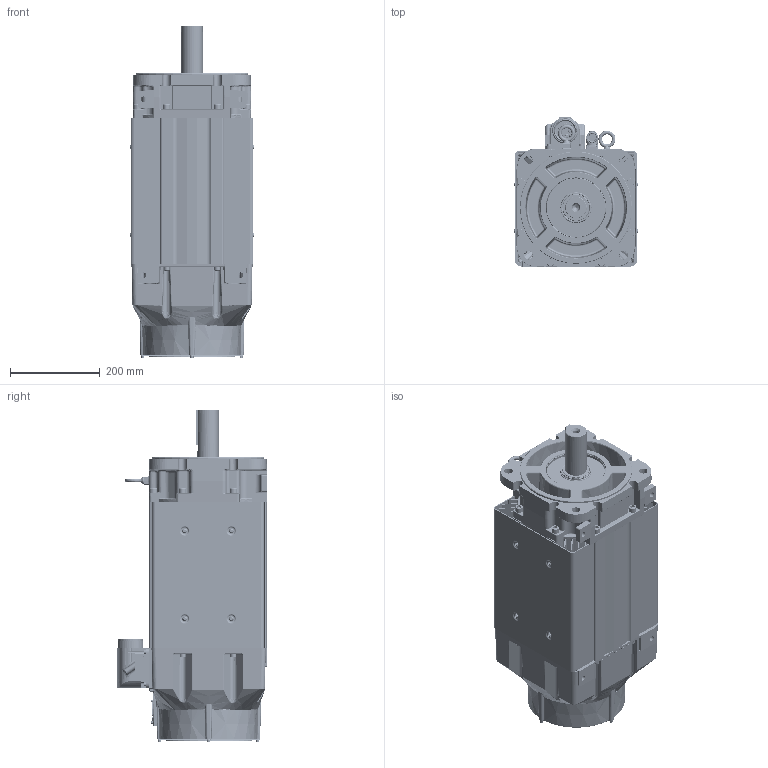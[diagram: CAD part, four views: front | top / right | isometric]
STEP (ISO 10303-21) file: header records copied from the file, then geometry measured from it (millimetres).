
FILE_DESCRIPTION((''),'2;1');
FILE_NAME('VPC-B3004A-SJ72FX_ASM','2016-09-27T',('SRGaddam'),('Rockwell Automation'),'PRO/ENGINEER BY PARAMETRIC TECHNOLOGY CORPORATION, 2012480','PRO/ENGINEER BY PARAMETRIC TECHNOLOGY CORPORATION, 2012480','');
FILE_SCHEMA(('CONFIG_CONTROL_DESIGN'));
Products named in the file (40): 10001404634_AF0; 10001404629_AF6; 10001404635_ASM; 10001585735; 10001441958; 10001737030; 10001448101; 10001587021; 10001405269_AF71; 10001405240_AF78; 10001405370_ASM; 10001946256; 10001956852; 10001989665; 10001713549_ASM; M4X7X14-SOCHD-CAP-SCR; 10001978970; 10001336508; 10001587431; CH4X063; 10001299929; 10001284567; 10000172464; 10001445961; 221404-Q12; 10000231113; 10002279234; 10001443420_ASM; 10001609981; 0002-5004; 10001586887; 10001439772; 0011-2084; M58; 10001586879; 142414_623; 135798_623; 142414-1_623_ASM; M623_ASM; VPC-B3004A-SJ72FX_ASM
Assembly tree (78 placements, depth 4):
  VPC-B3004A-SJ72FX_ASM
    10001404635_ASM
      10001404634_AF0
      10001404629_AF6
    10001585735  x8
    10001441958
    10001737030
    10001448101  x2
    10001587021  x8
    10001405370_ASM
      10001405269_AF71
      10001405240_AF78
    10001443420_ASM
      10001946256
      10001713549_ASM
        10001956852
        10001989665
      M4X7X14-SOCHD-CAP-SCR  x4
      10001978970
      10001336508
      10001587431
      CH4X063  x2
      10001299929
      10001284567
      10000172464  x4
      10001445961
      221404-Q12  x5
      10000231113
      10002279234
    10001609981
    0002-5004  x2
    10001586887  x6
    10001439772
    0011-2084
    M58
    10001586879  x4
    M623_ASM
      142414-1_623_ASM
        142414_623
        135798_623
      10000172464  x4
Bounding box: 275.91 x 335.29 x 739.85 mm (x, y, z)
Volume: 12369705.5 mm3; surface area: 2996161.6 mm2
Topology: 84 solids, 85 shells, 7977 faces, 19044 edges, 11513 vertices
Faces by surface type: cylinder 2471, plane 2366, bspline 1169, cone 1149, torus 662, sphere 139, extrusion 21
Entity records: 229411 total; most frequent: CARTESIAN_POINT 94368, ORIENTED_EDGE 28820, DIRECTION 26929, EDGE_CURVE 14410, AXIS2_PLACEMENT_3D 10316, VERTEX_POINT 8948, EDGE_LOOP 6456, VECTOR 6297
